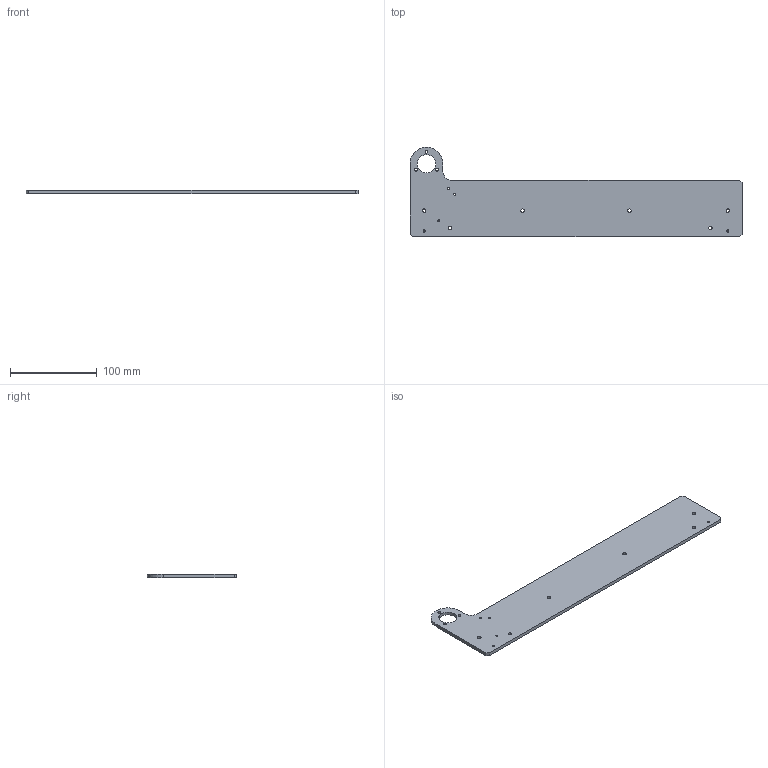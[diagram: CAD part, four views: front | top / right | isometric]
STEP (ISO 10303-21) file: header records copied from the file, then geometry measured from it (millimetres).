
FILE_DESCRIPTION(/* description */ (''),/* implementation_level */ '2;1');
FILE_NAME(/* name */ 'C:/#Projekte/Linear-Motor/STEP/encoder_plate.step',/* time_stamp */ '2019-01-06T11:25:20+01:00',/* author */ (''),/* organization */ (''),/* preprocessor_version */ 'ST-DEVELOPER v17.2',/* originating_system */ 'Autodesk Translation Framework v7.6.0.251',/* authorisation */ '');
FILE_SCHEMA (('AUTOMOTIVE_DESIGN { 1 0 10303 214 3 1 1 }'));
Length unit declared in the file: millimetre
Products named in the file (1): Fusion-Komponente
Bounding box: 382.7 x 103 x 4 mm (x, y, z)
Volume: 102802.2 mm3; surface area: 56030.2 mm2
Topology: 1 solids, 1 shells, 27 faces, 75 edges, 50 vertices
Faces by surface type: cylinder 17, plane 10
Full cylindrical faces by diameter (mm): 2.5 x5, 3.3 x3, 4 x6, 21 x1
Entity records: 983 total; most frequent: DIRECTION 165, CARTESIAN_POINT 153, ORIENTED_EDGE 150, EDGE_CURVE 75, AXIS2_PLACEMENT_3D 62, EDGE_LOOP 57, VERTEX_POINT 50, LINE 41
